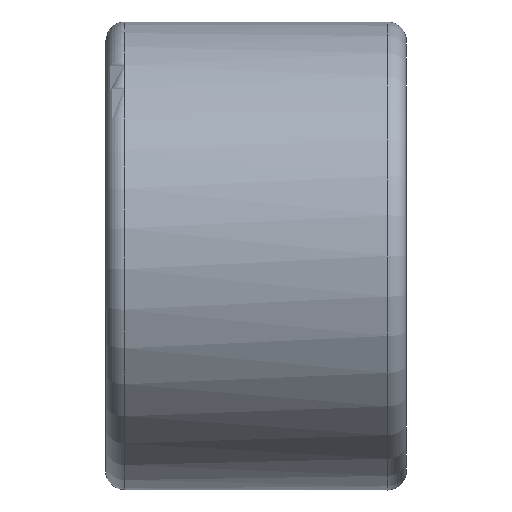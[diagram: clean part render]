
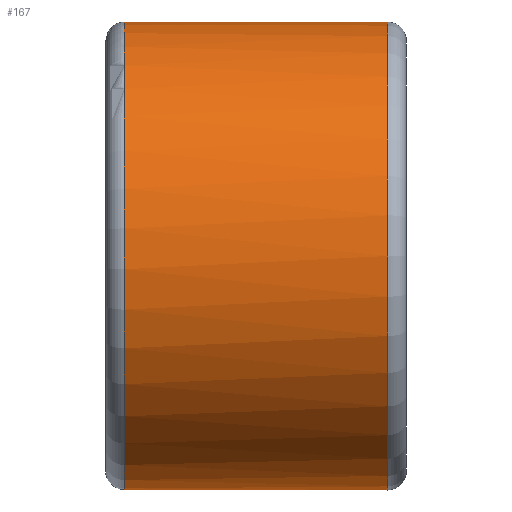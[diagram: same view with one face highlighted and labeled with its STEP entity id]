
A CAD part, left-side view. The second image highlights one B-rep face of the part: STEP entity #167.
In plain terms, the highlighted cylindrical face has radius 12.45 mm (diameter 24.9 mm), a full revolution.
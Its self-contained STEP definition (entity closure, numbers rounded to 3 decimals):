
#22=FACE_OUTER_BOUND('',#30,.T.);
#30=EDGE_LOOP('',(#108,#109,#110,#111,#112,#113,#114));
#40=LINE('',#298,#42);
#42=VECTOR('',#235,12.45);
#44=CIRCLE('',#196,12.45);
#45=CIRCLE('',#197,12.45);
#46=CIRCLE('',#198,12.45);
#47=CIRCLE('',#199,12.45);
#48=CIRCLE('',#200,12.45);
#66=VERTEX_POINT('',#291);
#67=VERTEX_POINT('',#292);
#68=VERTEX_POINT('',#294);
#69=VERTEX_POINT('',#297);
#70=VERTEX_POINT('',#299);
#84=EDGE_CURVE('',#66,#67,#44,.T.);
#85=EDGE_CURVE('',#68,#66,#45,.T.);
#86=EDGE_CURVE('',#67,#68,#46,.T.);
#87=EDGE_CURVE('',#67,#69,#40,.T.);
#88=EDGE_CURVE('',#70,#69,#47,.T.);
#89=EDGE_CURVE('',#69,#70,#48,.T.);
#108=ORIENTED_EDGE('',*,*,#84,.F.);
#109=ORIENTED_EDGE('',*,*,#85,.F.);
#110=ORIENTED_EDGE('',*,*,#86,.F.);
#111=ORIENTED_EDGE('',*,*,#87,.T.);
#112=ORIENTED_EDGE('',*,*,#88,.F.);
#113=ORIENTED_EDGE('',*,*,#89,.F.);
#114=ORIENTED_EDGE('',*,*,#87,.F.);
#156=CYLINDRICAL_SURFACE('',#195,12.45);
#167=ADVANCED_FACE('',(#22),#156,.T.);
#195=AXIS2_PLACEMENT_3D('',#290,#227,#228);
#196=AXIS2_PLACEMENT_3D('',#293,#229,#230);
#197=AXIS2_PLACEMENT_3D('',#295,#231,#232);
#198=AXIS2_PLACEMENT_3D('',#296,#233,#234);
#199=AXIS2_PLACEMENT_3D('',#300,#236,#237);
#200=AXIS2_PLACEMENT_3D('',#301,#238,#239);
#227=DIRECTION('center_axis',(0.,1.,0.));
#228=DIRECTION('ref_axis',(0.,0.,-1.));
#229=DIRECTION('center_axis',(0.,1.,0.));
#230=DIRECTION('ref_axis',(0.801,0.,-0.599));
#231=DIRECTION('center_axis',(0.,1.,0.));
#232=DIRECTION('ref_axis',(0.801,0.,-0.599));
#233=DIRECTION('center_axis',(0.,1.,0.));
#234=DIRECTION('ref_axis',(0.801,0.,-0.599));
#235=DIRECTION('',(0.,-1.,0.));
#236=DIRECTION('center_axis',(0.,-1.,0.));
#237=DIRECTION('ref_axis',(0.,0.,-1.));
#238=DIRECTION('center_axis',(0.,-1.,0.));
#239=DIRECTION('ref_axis',(0.,0.,-1.));
#290=CARTESIAN_POINT('Origin',(5.8,6.,0.));
#291=CARTESIAN_POINT('',(-4.174,15.,7.451));
#292=CARTESIAN_POINT('',(5.8,15.,12.45));
#293=CARTESIAN_POINT('Origin',(5.8,15.,0.));
#294=CARTESIAN_POINT('',(15.774,15.,-7.451));
#295=CARTESIAN_POINT('Origin',(5.8,15.,0.));
#296=CARTESIAN_POINT('Origin',(5.8,15.,0.));
#297=CARTESIAN_POINT('',(5.8,1.,12.45));
#298=CARTESIAN_POINT('',(5.8,6.,12.45));
#299=CARTESIAN_POINT('',(5.8,1.,-12.45));
#300=CARTESIAN_POINT('Origin',(5.8,1.,0.));
#301=CARTESIAN_POINT('Origin',(5.8,1.,0.));
